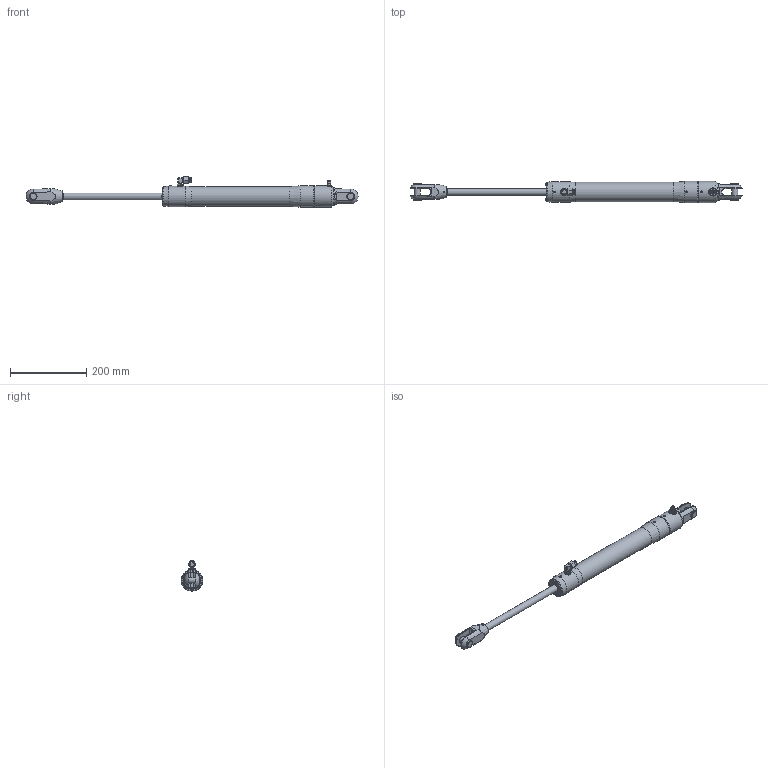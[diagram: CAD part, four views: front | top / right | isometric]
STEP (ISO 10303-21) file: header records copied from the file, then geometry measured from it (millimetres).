
FILE_DESCRIPTION(/* description */ (''),/* implementation_level */ '2;1');
FILE_NAME(/* name */ 'Q:\AA BRAND HYDRAULICS\HYDRAULICS FAMILY DIRECTORY\HYDRAULICS\CYLINDERS\RAMS\STAINLESS - STANDARD SINGLE ACTING (-0006 To -0260)\RSS-0012-S0260-NP-71\RSS-0012-S0260-NP-71 (Open).stp',/* time_stamp */ '2018-01-15T14:40:24+00:00',/* author */ ('Lorena'),/* organization */ (''),/* preprocessor_version */ 'ST-DEVELOPER v17',/* originating_system */ 'Autodesk Inventor 2018',/* authorisation */ '');
FILE_SCHEMA (('AUTOMOTIVE_DESIGN { 1 0 10303 214 3 1 1 }'));
Length unit declared in the file: millimetre
Products named in the file (1): RSS-0012-S0260-NP-71 (Open)
Bounding box: 868.3 x 55.8 x 79.12 mm (x, y, z)
Volume: 1181800.4 mm3; surface area: 124038.9 mm2
Topology: 2 solids, 6 shells, 1788 faces, 4811 edges, 3186 vertices
Faces by surface type: plane 1006, bspline 574, cone 110, cylinder 90, torus 4, sphere 4
Full cylindrical faces by diameter (mm): 3 x2, 3.5 x3, 4 x1, 4.4 x1, 5 x2, 7 x1, 7.728 x1, 8.728 x1, 8.8 x2, 9 x1, 9.728 x2, 10 x2, 11.11 x1, 11.8 x2, 12 x3, 13 x1, 15.1 x3, 15.88 x2, 18 x2, 19.85 x2, 20 x1, 49.2 x1, 50.8 x1, 53.8 x1, 54.8 x1, 55.8 x2
Entity records: 63952 total; most frequent: CARTESIAN_POINT 21380, ORIENTED_EDGE 9612, DIRECTION 6315, EDGE_CURVE 4806, VERTEX_POINT 3187, LINE 2977, VECTOR 2977, EDGE_LOOP 1957
